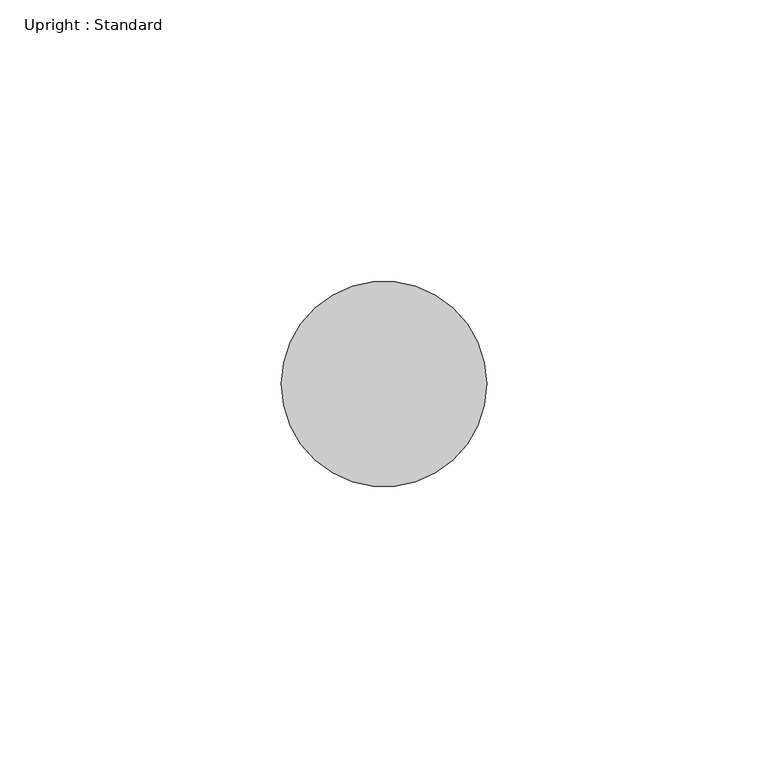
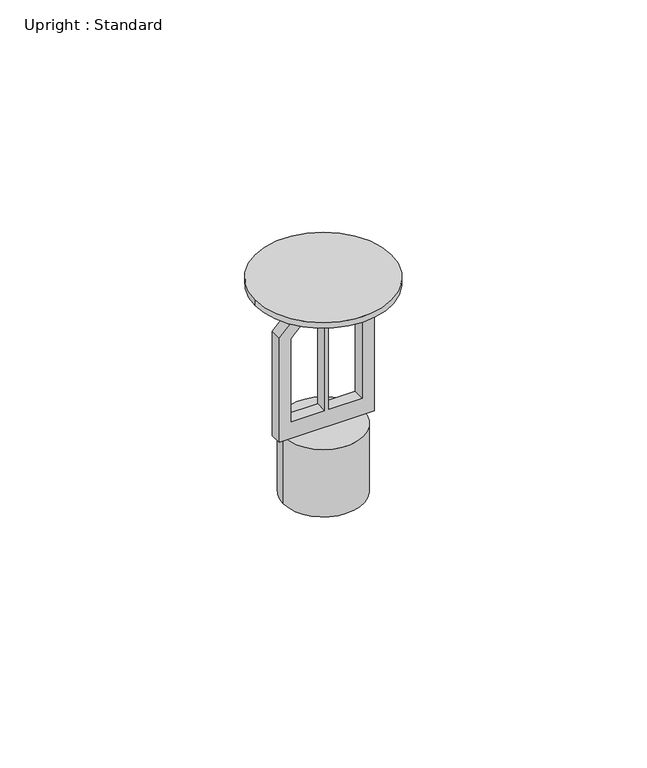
"""IFC4 building model written with IfcOpenShell, lengths in millimetres: fire suppression terminal geometry, Upright : Standard."""

from ifc_helpers import new_model, si_unit, point, frame, origin, origin_with_axes, origin_2d, place, context, project, spatial, polyline, circle_curve, trimmed, segment, composite_curve, outline, extrude, source, transform, mapped, element, save


def upright_standard_a22043d6(model_context):
    return source(origin(), model_context, "Body", "SweptSolid", [
        extrude(outline(polyline([(19.05, 12.7), (48.5735136, 12.7), (56.1728107, 5.100703), (58.7375, 5.100703), (58.7375, -5.100703), (56.1728107, -5.100703), (48.5735136, -12.7), (19.05, -12.7), (19.05, 12.7)]), holes=[polyline([(23.8125, -0.5953125), (23.8125, -9.525), (47.2583856, -9.525), (53.6081213, -3.1752643), (53.6081213, -0.5953125), (23.8125, -0.5953125)]), polyline([(23.8125, 0.5953125), (53.6081213, 0.5953125), (53.6081213, 3.1752643), (47.2583856, 9.525), (23.8125, 9.525), (23.8125, 0.5953125)])]), frame((0.0, -1.5875, 0.0), z_axis=(0.0, 1.0, 0.0), x_axis=(0.0, 0.0, 1.0)), (0.0, 0.0, 1.0), 3.175),
        extrude(outline(composite_curve([segment(trimmed(circle_curve(origin_2d(), 10.668), [point((10.668, 0.0))], [point((-10.668, 0.0))], False, "CARTESIAN"), True, "CONTINUOUS"), segment(trimmed(circle_curve(origin_2d(), 10.668), [point((-10.668, 0.0))], [point((10.668, 0.0))], False, "CARTESIAN"), True, "CONTINUOUS")], self_intersect=False)), origin_with_axes(), (0.0, 0.0, 1.0), 19.05),
        extrude(outline(composite_curve([segment(trimmed(circle_curve(origin_2d(), 18.25625), [point((18.25625, 0.0))], [point((-18.25625, 0.0))], False, "CARTESIAN"), True, "CONTINUOUS"), segment(trimmed(circle_curve(origin_2d(), 18.25625), [point((-18.25625, 0.0))], [point((18.25625, 0.0))], False, "CARTESIAN"), True, "CONTINUOUS")], self_intersect=False)), frame((0.0, 0.0, 58.7375), z_axis=(0.0, 0.0, 1.0), x_axis=(1.0, 0.0, 0.0)), (0.0, 0.0, 1.0), 1.5875),
    ])


if __name__ == "__main__":
    model = new_model("IFC4")
    model_context = context("Model", 3, world=origin())
    ifc_project = project(units=[si_unit("LENGTHUNIT", "METRE", prefix="MILLI")], contexts=[model_context])
    site = spatial("IfcSite", under=ifc_project)
    building = spatial("IfcBuilding", under=site)
    placement = place(None, origin())
    upright_standard_shape = upright_standard_a22043d6(model_context)
    element("IfcFireSuppressionTerminal", 1, ObjectType="Upright : Standard", at=placement, inside=building, context=model_context, shape_type="MappedRepresentation", body=[
        mapped(upright_standard_shape, transform((0.0, 0.0, 0.0), x_axis=(1.0, 0.0, 0.0), y_axis=(0.0, 1.0, 0.0), z_axis=(0.0, 0.0, 1.0))),
    ])
    save(model, "model.ifc")
